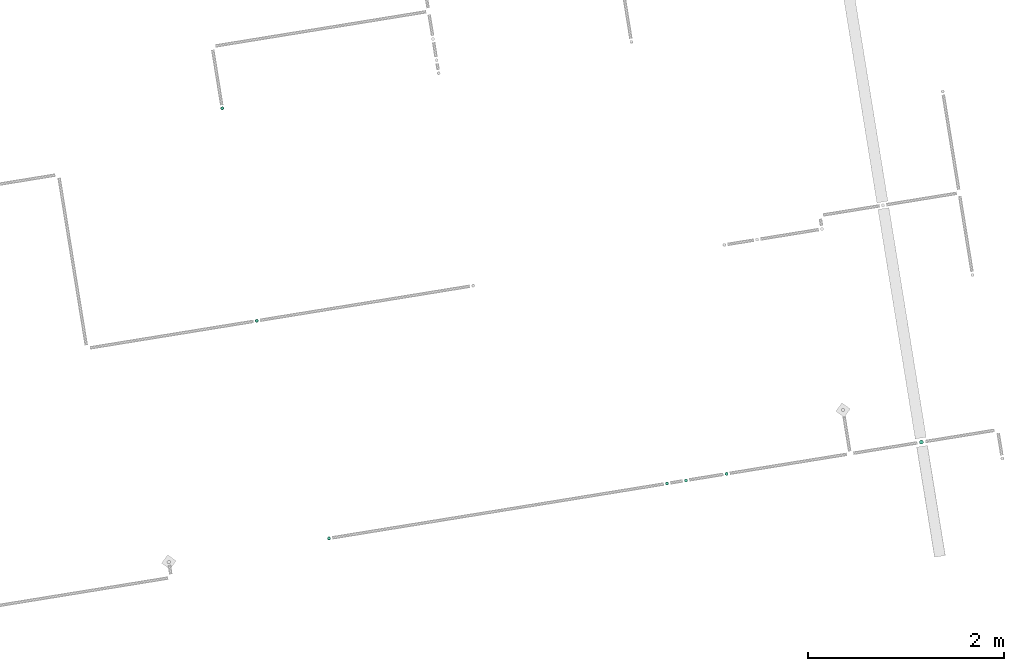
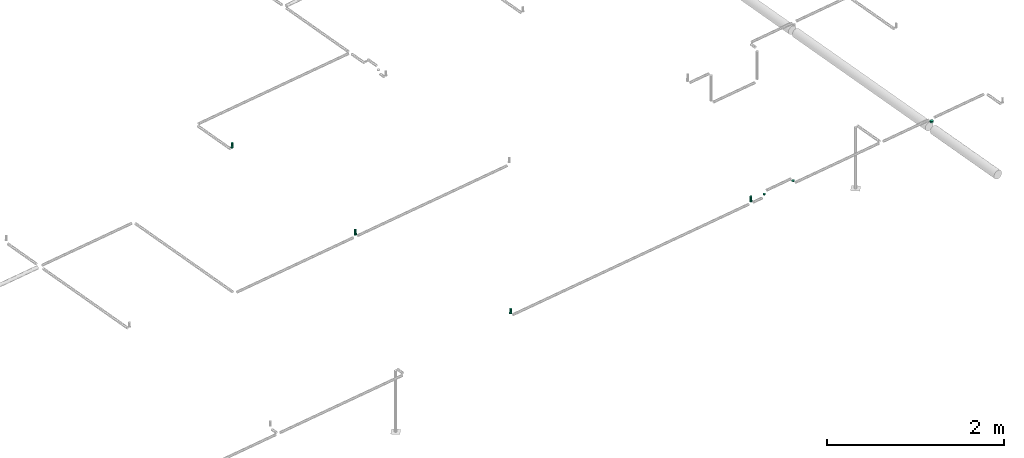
# One storey, part 7 of 11: 7 flow segments, 4 flow terminals.
"""IFC2X3 building model written with IfcOpenShell, lengths in millimetres."""

from ifc_helpers import new_model, entity, si_unit, converted_unit, derived_unit, direction, frame, frame_2d, origin, origin_with_axes, origin_2d_with_axis, place, context, subcontext, project, spatial, circle, extrude, source, transform, mapped, material, type_object, element, save


model = new_model("IFC2X3")

# Units and contexts
model_context = context("Model", 3, precision=0.01, world=origin(), true_north=direction((6.12323399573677e-17, 1.0)))
plan_context = context("Plan", 3, precision=1e-05, world=origin_with_axes())
body_context = subcontext(model_context, "Body", "Model", "MODEL_VIEW")
ifc_project = project(units=[converted_unit("PLANEANGLEUNIT", "DEGREE", entity("IfcPositiveLengthMeasure", 0.0174532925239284), si_unit("PLANEANGLEUNIT", "RADIAN"), dimensions=[0, 0, 0, 0, 0, 0, 0]), si_unit("AREAUNIT", "SQUARE_METRE"), si_unit("LENGTHUNIT", "METRE", prefix="MILLI"), si_unit("MASSUNIT", "GRAM", prefix="KILO"), si_unit("POWERUNIT", "WATT"), si_unit("PRESSUREUNIT", "PASCAL", prefix="KILO"), si_unit("FORCEUNIT", "NEWTON", prefix="KILO"), si_unit("ELECTRICVOLTAGEUNIT", "VOLT"), si_unit("ELECTRICCURRENTUNIT", "AMPERE"), si_unit("THERMODYNAMICTEMPERATUREUNIT", "DEGREE_CELSIUS"), si_unit("TIMEUNIT", "SECOND"), si_unit("VOLUMEUNIT", "CUBIC_METRE"), derived_unit("LINEARVELOCITYUNIT", [(si_unit("LENGTHUNIT", "METRE"), 1), (si_unit("TIMEUNIT", "SECOND"), -1)]), derived_unit("VOLUMETRICFLOWRATEUNIT", [(si_unit("VOLUMEUNIT", "CUBIC_METRE"), 1), (si_unit("TIMEUNIT", "SECOND"), -1)]), derived_unit("THERMALTRANSMITTANCEUNIT", [(si_unit("POWERUNIT", "WATT"), 1), (si_unit("THERMODYNAMICTEMPERATUREUNIT", "KELVIN"), -1), (si_unit("AREAUNIT", "SQUARE_METRE"), -1)]), derived_unit("SOUNDPRESSUREUNIT", [(si_unit("PRESSUREUNIT", "PASCAL"), 1)])], contexts=[model_context, plan_context])

# Site, building, storey
site_placement = place(None, frame((-0.00071070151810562, 0.00438415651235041, 0.0), z_axis=(0.0, 0.0, 1.0), x_axis=(-0.160236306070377, 0.987078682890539, 0.0)))
site = spatial("IfcSite", under=ifc_project, at=site_placement, Name="Default", CompositionType="ELEMENT")
building_placement = place(site_placement, origin_with_axes())
building = spatial("IfcBuilding", under=site, at=building_placement, CompositionType="ELEMENT")
storey_placement = place(building_placement, frame((0.0, 0.0, 50999.9999999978), z_axis=(0.0, 0.0, 1.0), x_axis=(1.0, 0.0, 0.0)))
storey = spatial("IfcBuildingStorey", under=building, at=storey_placement, Name="Nivå D", CompositionType="ELEMENT", Elevation=50999.9999999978)

# Flow terminals
ifc_material = material(Name="<Unnamed>")
fire_suppression_terminal_type = type_object("IfcFireSuppressionTerminalType", Name="UZ002T:Dyse/Spreder - UZ002T", PredefinedType="NOTDEFINED", material=ifc_material)
shared_shape = source(origin(), body_context, "Body", "SweptSolid", [
    extrude(circle(Radius=14.0, at=frame_2d((0.0, -2.26176240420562e-14), x_axis=(1.0, 0.0))), origin(), (0.0, 0.0, 1.0), 58.9999999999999),
])
for number, where, z_axis, x_axis in (
    (1, (769865.119644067, -600309.48173883, 3470.0), (0.0, 0.0, 1.0), (1.0, 0.0, 0.0)),
    (2, (769865.119644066, -596809.48173883, 3470.0), (0.0, 0.0, 1.0), (1.0, 0.0, 0.0)),
    (3, (772177.619644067, -596437.180498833, 3470.0), (0.0, 0.0, 1.0), (1.0, 0.0, 0.0)),
    (4, (774377.619644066, -596437.180498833, 3470.0), (0.0, 0.0, 1.0), (1.0, 0.0, 0.0)),
):
    element("IfcFlowTerminal", number, at=place(storey_placement, frame(where, z_axis=z_axis, x_axis=x_axis)), inside=storey, type_object=fire_suppression_terminal_type, material=ifc_material, Name="UZ002T:Dyse/Spreder - UZ002T", ObjectType="UZ002T:Dyse/Spreder - UZ002T", context=body_context, shape_type="MappedRepresentation", body=[
        mapped(shared_shape, transform((0.0, 0.0, 0.0), scale=1.0)),
    ])

# Flow segments
pipe_segment_type = type_object("IfcPipeSegmentType", Name="Pipe Types:Stålrør normaltykke", PredefinedType="NOTDEFINED")
flow_segment_1_placement = place(storey_placement, origin_with_axes())
element("IfcFlowSegment", 5, at=flow_segment_1_placement, inside=storey, type_object=pipe_segment_type, Name="Pipe Types:Stålrør normaltykke", ObjectType="Pipe Types:Stålrør normaltykke", context=body_context, shape_type="SweptSolid", body=[
    extrude(circle(Radius=16.8500004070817, at=frame_2d((2.7884825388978e-18, 0.0), x_axis=(1.0, 0.0))), frame((769865.119649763, -600309.48173883, 3455.35000000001), z_axis=(-3.21886506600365e-07, 0.0, 1.0), x_axis=(-1.0, 0.0, -3.21886506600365e-07)), (0.0, 0.0, 1.0), 17.6979999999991),
])
flow_segment_2_placement = place(storey_placement, origin_with_axes())
element("IfcFlowSegment", 6, at=flow_segment_2_placement, inside=storey, type_object=pipe_segment_type, Name="Pipe Types:Stålrør normaltykke", ObjectType="Pipe Types:Stålrør normaltykke", context=body_context, shape_type="SweptSolid", body=[
    extrude(circle(Radius=16.8500004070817, at=frame_2d((-4.46461625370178e-18, 0.0), x_axis=(1.0, 0.0))), frame((769865.119648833, -596809.48173883, 3463.79999999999), z_axis=(-5.15369814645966e-07, 0.0, 1.0), x_axis=(-1.0, 0.0, -5.15369814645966e-07)), (0.0, 0.0, 1.0), 9.24799999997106),
])
flow_segment_3_placement = place(storey_placement, origin_with_axes())
element("IfcFlowSegment", 7, at=flow_segment_3_placement, inside=storey, type_object=pipe_segment_type, Name="Pipe Types:Stålrør normaltykke", ObjectType="Pipe Types:Stålrør normaltykke", context=body_context, shape_type="SweptSolid", body=[
    extrude(circle(Radius=16.8500004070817, at=origin_2d_with_axis()), frame((772177.619649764, -596437.180498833, 3455.34938722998), z_axis=(-3.21883193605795e-07, 0.0, 1.0), x_axis=(-1.0, 0.0, -3.21883193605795e-07)), (0.0, 0.0, 1.0), 17.6986127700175),
])
flow_segment_4_placement = place(storey_placement, origin_with_axes())
element("IfcFlowSegment", 8, at=flow_segment_4_placement, inside=storey, type_object=pipe_segment_type, Name="Pipe Types:Stålrør normaltykke", ObjectType="Pipe Types:Stålrør normaltykke", context=body_context, shape_type="SweptSolid", body=[
    extrude(circle(Radius=16.8500004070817, at=origin_2d_with_axis()), frame((774377.619648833, -596437.180498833, 3463.79999627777), z_axis=(-5.15369607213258e-07, 0.0, 1.0), x_axis=(-1.0, 0.0, -5.15369607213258e-07)), (0.0, 0.0, 1.0), 9.24800372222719),
])
flow_segment_5_placement = place(storey_placement, origin_with_axes())
element("IfcFlowSegment", 9, at=flow_segment_5_placement, inside=storey, type_object=pipe_segment_type, Name="Pipe Types:Stålrør normaltykke", ObjectType="Pipe Types:Stålrør normaltykke", context=body_context, shape_type="SweptSolid", body=[
    extrude(circle(Radius=21.2000007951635, at=origin_2d_with_axis()), frame((769865.119652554, -602942.60820948, 3385.8), z_axis=(0.0, 0.0, 1.0), x_axis=(-1.0, 0.0, 0.0)), (0.0, 0.0, 1.0), 18.8499999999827),
])
flow_segment_6_placement = place(storey_placement, origin_with_axes())
element("IfcFlowSegment", 10, at=flow_segment_6_placement, inside=storey, type_object=pipe_segment_type, Name="Pipe Types:Stålrør normaltykke", ObjectType="Pipe Types:Stålrør normaltykke", context=body_context, shape_type="SweptSolid", body=[
    extrude(circle(Radius=16.8500004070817, at=origin_2d_with_axis()), frame((769865.119652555, -600925.481404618, 3463.8), z_axis=(0.0, 0.0, 1.0), x_axis=(-1.0, 0.0, 0.0)), (0.0, 0.0, 1.0), 10.7900598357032),
])
flow_segment_7_placement = place(storey_placement, origin_with_axes())
element("IfcFlowSegment", 11, at=flow_segment_7_placement, inside=storey, type_object=pipe_segment_type, Name="Pipe Types:Stålrør normaltykke", ObjectType="Pipe Types:Stålrør normaltykke", context=body_context, shape_type="SweptSolid", body=[
    extrude(circle(Radius=16.8500004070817, at=origin_2d_with_axis()), frame((769865.119652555, -600504.914427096, 3463.8), z_axis=(0.0, 0.0, 1.0), x_axis=(-1.0, 0.0, 0.0)), (0.0, 0.0, 1.0), 10.7900598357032),
])

save(model, "model.ifc")
